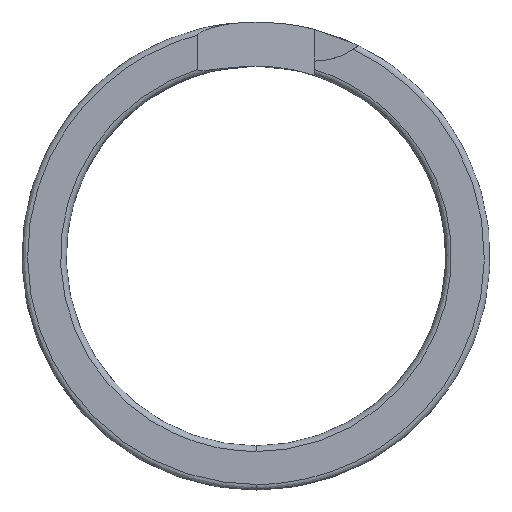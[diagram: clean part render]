
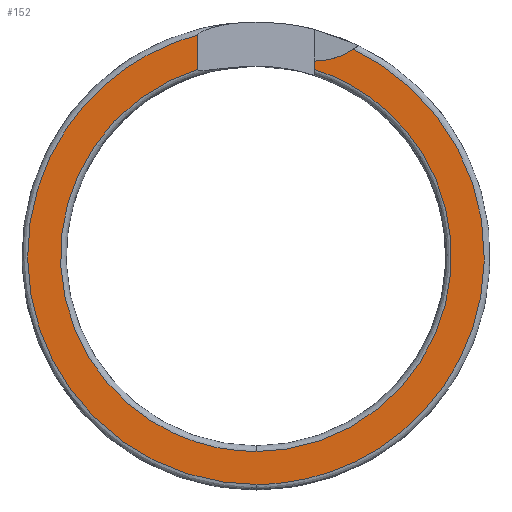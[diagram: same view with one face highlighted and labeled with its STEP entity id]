
A CAD part, front view. The second image highlights one B-rep face of the part: STEP entity #152.
In plain terms, the highlighted planar face has unit normal (0, -1, 0).
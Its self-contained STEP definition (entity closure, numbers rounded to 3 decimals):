
#8 = VERTEX_POINT ( 'NONE', #952 ) ;
#10 = CARTESIAN_POINT ( 'NONE',  ( -12.897, -0.445, 4.08 ) ) ;
#18 = ORIENTED_EDGE ( 'NONE', *, *, #994, .T. ) ;
#59 = AXIS2_PLACEMENT_3D ( 'NONE', #650, #986, #828 ) ;
#79 = CARTESIAN_POINT ( 'NONE',  ( 0., -0.445, -7.247 ) ) ;
#99 = CARTESIAN_POINT ( 'NONE',  ( 0., -0.445, -6.203 ) ) ;
#111 = ORIENTED_EDGE ( 'NONE', *, *, #511, .F. ) ;
#113 = CARTESIAN_POINT ( 'NONE',  ( 3.087, -0.445, 6.557 ) ) ;
#140 = CARTESIAN_POINT ( 'NONE',  ( -1.856, -0.445, 5.919 ) ) ;
#151 =( BOUNDED_CURVE ( )  B_SPLINE_CURVE ( 3, ( #140, #309, #629, #953 ),
 .UNSPECIFIED., .F., .T. ) 
 B_SPLINE_CURVE_WITH_KNOTS ( ( 4, 4 ),
 ( 0., 0.5 ),
 .UNSPECIFIED. ) 
 CURVE ( )  GEOMETRIC_REPRESENTATION_ITEM ( )  RATIONAL_B_SPLINE_CURVE ( ( 1., 0.434, 0.434, 1. ) ) 
 REPRESENTATION_ITEM ( '' )  );
#152 = ADVANCED_FACE ( 'NONE', ( #385 ), #800, .T. ) ;
#182 = VERTEX_POINT ( 'NONE', #243 ) ;
#187 =( BOUNDED_CURVE ( )  B_SPLINE_CURVE ( 3, ( #99, #526, #851, #508 ),
 .UNSPECIFIED., .F., .T. ) 
 B_SPLINE_CURVE_WITH_KNOTS ( ( 4, 4 ),
 ( 0.5, 1. ),
 .UNSPECIFIED. ) 
 CURVE ( )  GEOMETRIC_REPRESENTATION_ITEM ( )  RATIONAL_B_SPLINE_CURVE ( ( 1., 0.434, 0.434, 1. ) ) 
 REPRESENTATION_ITEM ( '' )  );
#235 = LINE ( 'NONE', #475, #739 ) ;
#243 = CARTESIAN_POINT ( 'NONE',  ( -1.856, -0.445, 7.005 ) ) ;
#287 = CARTESIAN_POINT ( 'NONE',  ( 0., -0.445, -7.247 ) ) ;
#292 = EDGE_CURVE ( 'NONE', #506, #1007, #691, .T. ) ;
#309 = CARTESIAN_POINT ( 'NONE',  ( -10.838, -0.445, 3.102 ) ) ;
#314 = CARTESIAN_POINT ( 'NONE',  ( 0., -0.445, -7.247 ) ) ;
#328 = VERTEX_POINT ( 'NONE', #444 ) ;
#336 = LINE ( 'NONE', #422, #711 ) ;
#337 = ORIENTED_EDGE ( 'NONE', *, *, #1046, .T. ) ;
#372 = ORIENTED_EDGE ( 'NONE', *, *, #1059, .F. ) ;
#376 = ORIENTED_EDGE ( 'NONE', *, *, #757, .F. ) ;
#378 = CIRCLE ( 'NONE', #59, 2.217 ) ;
#385 = FACE_OUTER_BOUND ( 'NONE', #503, .T. ) ;
#409 = CARTESIAN_POINT ( 'NONE',  ( -11.422, -0.445, -7.247 ) ) ;
#421 = CARTESIAN_POINT ( 'NONE',  ( 11.996, -0.445, 2.362 ) ) ;
#422 = CARTESIAN_POINT ( 'NONE',  ( -1.856, -0.445, -6.203 ) ) ;
#444 = CARTESIAN_POINT ( 'NONE',  ( 1.856, -0.445, 5.919 ) ) ;
#459 = CARTESIAN_POINT ( 'NONE',  ( 0., -0.445, -6.203 ) ) ;
#475 = CARTESIAN_POINT ( 'NONE',  ( 1.856, -0.445, 14.85 ) ) ;
#503 = EDGE_LOOP ( 'NONE', ( #337, #111, #854, #18, #992, #372, #376 ) ) ;
#506 = VERTEX_POINT ( 'NONE', #977 ) ;
#508 = CARTESIAN_POINT ( 'NONE',  ( 1.856, -0.445, 5.919 ) ) ;
#511 = EDGE_CURVE ( 'NONE', #1007, #182, #954, .T. ) ;
#526 = CARTESIAN_POINT ( 'NONE',  ( 9.413, -0.445, -6.203 ) ) ;
#544 = CARTESIAN_POINT ( 'NONE',  ( 0., -0.445, -6.203 ) ) ;
#556 = EDGE_CURVE ( 'NONE', #328, #911, #235, .T. ) ;
#558 = CARTESIAN_POINT ( 'NONE',  ( 1.856, -0.445, 6.184 ) ) ;
#594 = CARTESIAN_POINT ( 'NONE',  ( 9.847, -0.445, -7.247 ) ) ;
#599 = AXIS2_PLACEMENT_3D ( 'NONE', #544, #1050, #872 ) ;
#629 = CARTESIAN_POINT ( 'NONE',  ( -9.413, -0.445, -6.203 ) ) ;
#650 = CARTESIAN_POINT ( 'NONE',  ( 1.856, -0.445, 8.4 ) ) ;
#691 =( BOUNDED_CURVE ( )  B_SPLINE_CURVE ( 3, ( #113, #421, #594, #287 ),
 .UNSPECIFIED., .F., .T. ) 
 B_SPLINE_CURVE_WITH_KNOTS ( ( 4, 4 ),
 ( 0., 0.484 ),
 .UNSPECIFIED. ) 
 CURVE ( )  GEOMETRIC_REPRESENTATION_ITEM ( )  RATIONAL_B_SPLINE_CURVE ( ( 1., 0.479, 0.479, 1. ) ) 
 REPRESENTATION_ITEM ( '' )  );
#711 = VECTOR ( 'NONE', #923, 1000. ) ;
#733 = DIRECTION ( 'NONE',  ( 0., 0., 1. ) ) ;
#739 = VECTOR ( 'NONE', #733, 1000. ) ;
#757 = EDGE_CURVE ( 'NONE', #8, #829, #151, .T. ) ;
#800 = PLANE ( 'NONE',  #599 ) ;
#828 = DIRECTION ( 'NONE',  ( 0., 0., 1. ) ) ;
#829 = VERTEX_POINT ( 'NONE', #459 ) ;
#851 = CARTESIAN_POINT ( 'NONE',  ( 10.838, -0.445, 3.102 ) ) ;
#854 = ORIENTED_EDGE ( 'NONE', *, *, #292, .F. ) ;
#872 = DIRECTION ( 'NONE',  ( 0., 0., -1. ) ) ;
#911 = VERTEX_POINT ( 'NONE', #558 ) ;
#923 = DIRECTION ( 'NONE',  ( 0., 0., 1. ) ) ;
#952 = CARTESIAN_POINT ( 'NONE',  ( -1.856, -0.445, 5.919 ) ) ;
#953 = CARTESIAN_POINT ( 'NONE',  ( 0., -0.445, -6.203 ) ) ;
#954 =( BOUNDED_CURVE ( )  B_SPLINE_CURVE ( 3, ( #79, #409, #10, #1063 ),
 .UNSPECIFIED., .F., .T. ) 
 B_SPLINE_CURVE_WITH_KNOTS ( ( 4, 4 ),
 ( 0.484, 1. ),
 .UNSPECIFIED. ) 
 CURVE ( )  GEOMETRIC_REPRESENTATION_ITEM ( )  RATIONAL_B_SPLINE_CURVE ( ( 1., 0.419, 0.419, 1. ) ) 
 REPRESENTATION_ITEM ( '' )  );
#977 = CARTESIAN_POINT ( 'NONE',  ( 3.087, -0.445, 6.557 ) ) ;
#986 = DIRECTION ( 'NONE',  ( 0., 1., 0. ) ) ;
#992 = ORIENTED_EDGE ( 'NONE', *, *, #556, .F. ) ;
#994 = EDGE_CURVE ( 'NONE', #506, #911, #378, .T. ) ;
#1007 = VERTEX_POINT ( 'NONE', #314 ) ;
#1046 = EDGE_CURVE ( 'NONE', #8, #182, #336, .T. ) ;
#1050 = DIRECTION ( 'NONE',  ( 0., -1., 0. ) ) ;
#1059 = EDGE_CURVE ( 'NONE', #829, #328, #187, .T. ) ;
#1063 = CARTESIAN_POINT ( 'NONE',  ( -1.856, -0.445, 7.005 ) ) ;
